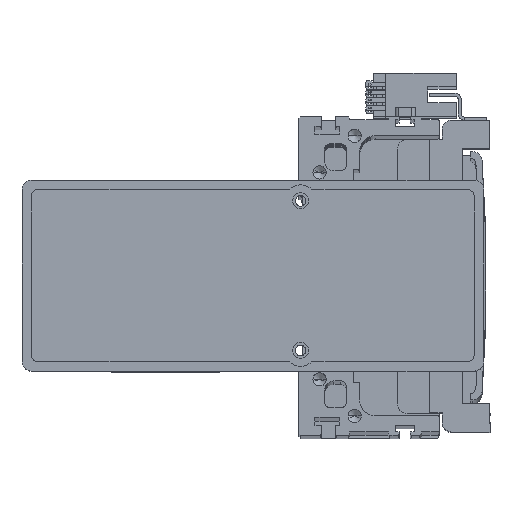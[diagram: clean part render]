
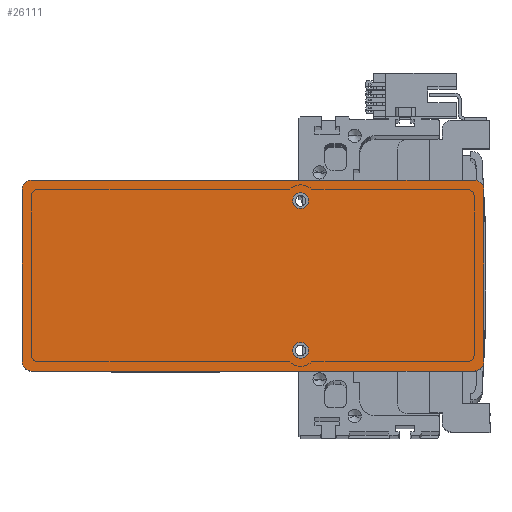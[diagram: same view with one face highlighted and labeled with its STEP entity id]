
A CAD part, top view. The second image highlights one B-rep face of the part: STEP entity #26111.
In plain terms, the highlighted planar face has unit normal (0, 0, 1) as drawn and (0, 0, -1) by its records, which use the part's own axes.
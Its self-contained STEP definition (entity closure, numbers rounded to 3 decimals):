
#12 = CIRCLE ( 'NONE', #10536, 3. ) ;
#491 = DIRECTION ( 'NONE',  ( 0., 0., -1. ) ) ;
#1661 = CARTESIAN_POINT ( 'NONE',  ( 15., -23.5, 0. ) ) ;
#2094 = CIRCLE ( 'NONE', #30233, 3. ) ;
#2236 = CARTESIAN_POINT ( 'NONE',  ( -69.5, 30., 0. ) ) ;
#3254 = CARTESIAN_POINT ( 'NONE',  ( 69.5, 30., 0. ) ) ;
#3315 = AXIS2_PLACEMENT_3D ( 'NONE', #35837, #16517, #39106 ) ;
#3468 = CARTESIAN_POINT ( 'NONE',  ( 15., 23.5, 0. ) ) ;
#3576 = ORIENTED_EDGE ( 'NONE', *, *, #8893, .F. ) ;
#3593 = DIRECTION ( 'NONE',  ( 0., 0., -1. ) ) ;
#3835 = VERTEX_POINT ( 'NONE', #26160 ) ;
#4068 = VERTEX_POINT ( 'NONE', #11952 ) ;
#4305 = VECTOR ( 'NONE', #36354, 1000. ) ;
#4425 = EDGE_CURVE ( 'NONE', #40394, #8383, #35513, .T. ) ;
#4871 = DIRECTION ( 'NONE',  ( 0., 1., 0. ) ) ;
#4902 = DIRECTION ( 'NONE',  ( -1., 0., 0. ) ) ;
#5485 = ORIENTED_EDGE ( 'NONE', *, *, #18612, .F. ) ;
#6014 = VERTEX_POINT ( 'NONE', #3254 ) ;
#6663 = ORIENTED_EDGE ( 'NONE', *, *, #4425, .F. ) ;
#6713 = DIRECTION ( 'NONE',  ( -1., 0., 0. ) ) ;
#7177 = ORIENTED_EDGE ( 'NONE', *, *, #9986, .F. ) ;
#7451 = CARTESIAN_POINT ( 'NONE',  ( -72.5, -30., 0. ) ) ;
#7753 = CARTESIAN_POINT ( 'NONE',  ( 12.5, 23.5, 0. ) ) ;
#8383 = VERTEX_POINT ( 'NONE', #17517 ) ;
#8536 = CARTESIAN_POINT ( 'NONE',  ( 72.5, 27., 0. ) ) ;
#8893 = EDGE_CURVE ( 'NONE', #4068, #12435, #31868, .T. ) ;
#9300 = DIRECTION ( 'NONE',  ( 0., 0., 1. ) ) ;
#9791 = ORIENTED_EDGE ( 'NONE', *, *, #23837, .T. ) ;
#9985 = ORIENTED_EDGE ( 'NONE', *, *, #38138, .T. ) ;
#9986 = EDGE_CURVE ( 'NONE', #24341, #22531, #27918, .T. ) ;
#10536 = AXIS2_PLACEMENT_3D ( 'NONE', #19761, #491, #22985 ) ;
#10806 = VECTOR ( 'NONE', #28280, 1000. ) ;
#11192 = CARTESIAN_POINT ( 'NONE',  ( 72.5, -30., 0. ) ) ;
#11229 = EDGE_CURVE ( 'NONE', #4068, #15933, #12, .T. ) ;
#11380 = AXIS2_PLACEMENT_3D ( 'NONE', #1661, #24107, #4902 ) ;
#11457 = ORIENTED_EDGE ( 'NONE', *, *, #11229, .T. ) ;
#11952 = CARTESIAN_POINT ( 'NONE',  ( 72.5, -27., 0. ) ) ;
#12073 = CARTESIAN_POINT ( 'NONE',  ( 15., 23.5, 0. ) ) ;
#12386 = PLANE ( 'NONE',  #40024 ) ;
#12435 = VERTEX_POINT ( 'NONE', #8536 ) ;
#12695 = EDGE_CURVE ( 'NONE', #16002, #22531, #17470, .T. ) ;
#12812 = AXIS2_PLACEMENT_3D ( 'NONE', #37796, #18490, #41008 ) ;
#12858 = EDGE_LOOP ( 'NONE', ( #5485, #22912 ) ) ;
#13389 = CIRCLE ( 'NONE', #29921, 2.5 ) ;
#13544 = FACE_OUTER_BOUND ( 'NONE', #17754, .T. ) ;
#14477 = CARTESIAN_POINT ( 'NONE',  ( -69.5, 27., 0. ) ) ;
#15318 = DIRECTION ( 'NONE',  ( -1., 0., 0. ) ) ;
#15933 = VERTEX_POINT ( 'NONE', #31003 ) ;
#16002 = VERTEX_POINT ( 'NONE', #25042 ) ;
#16517 = DIRECTION ( 'NONE',  ( 0., 0., -1. ) ) ;
#16893 = VERTEX_POINT ( 'NONE', #2236 ) ;
#17470 = CIRCLE ( 'NONE', #3315, 3. ) ;
#17517 = CARTESIAN_POINT ( 'NONE',  ( 17.5, -23.5, 0. ) ) ;
#17643 = DIRECTION ( 'NONE',  ( 1., 0., 0. ) ) ;
#17754 = EDGE_LOOP ( 'NONE', ( #3576, #11457, #28784, #41576, #7177, #9985, #41284, #9791 ) ) ;
#18490 = DIRECTION ( 'NONE',  ( 0., 0., -1. ) ) ;
#18612 = EDGE_CURVE ( 'NONE', #19298, #3835, #24079, .T. ) ;
#19298 = VERTEX_POINT ( 'NONE', #7753 ) ;
#19358 = VECTOR ( 'NONE', #26695, 1000. ) ;
#19708 = EDGE_LOOP ( 'NONE', ( #6663, #34772 ) ) ;
#19761 = CARTESIAN_POINT ( 'NONE',  ( 69.5, -27., 0. ) ) ;
#20347 = LINE ( 'NONE', #25021, #10806 ) ;
#21348 = LINE ( 'NONE', #26600, #4305 ) ;
#22531 = VERTEX_POINT ( 'NONE', #35972 ) ;
#22819 = CARTESIAN_POINT ( 'NONE',  ( 69.5, 27., 0. ) ) ;
#22912 = ORIENTED_EDGE ( 'NONE', *, *, #36097, .F. ) ;
#22985 = DIRECTION ( 'NONE',  ( 1., 0., 0. ) ) ;
#23837 = EDGE_CURVE ( 'NONE', #6014, #12435, #40081, .T. ) ;
#24079 = CIRCLE ( 'NONE', #29753, 2.5 ) ;
#24107 = DIRECTION ( 'NONE',  ( 0., 0., -1. ) ) ;
#24308 = EDGE_CURVE ( 'NONE', #6014, #16893, #20347, .T. ) ;
#24341 = VERTEX_POINT ( 'NONE', #41235 ) ;
#25021 = CARTESIAN_POINT ( 'NONE',  ( 72.5, 30., 0. ) ) ;
#25042 = CARTESIAN_POINT ( 'NONE',  ( -69.5, -30., 0. ) ) ;
#25930 = DIRECTION ( 'NONE',  ( 0., 0., -1. ) ) ;
#25975 = CIRCLE ( 'NONE', #12812, 2.5 ) ;
#26060 = DIRECTION ( 'NONE',  ( 1., 0., 0. ) ) ;
#26111 = ADVANCED_FACE ( 'NONE', ( #38226, #30658, #13544 ), #12386, .F. ) ;
#26160 = CARTESIAN_POINT ( 'NONE',  ( 17.5, 23.5, 0. ) ) ;
#26600 = CARTESIAN_POINT ( 'NONE',  ( 72.5, -30., 0. ) ) ;
#26695 = DIRECTION ( 'NONE',  ( 0., -1., 0. ) ) ;
#27918 = LINE ( 'NONE', #7451, #19358 ) ;
#28280 = DIRECTION ( 'NONE',  ( -1., 0., 0. ) ) ;
#28544 = CARTESIAN_POINT ( 'NONE',  ( 0., 0., 0. ) ) ;
#28784 = ORIENTED_EDGE ( 'NONE', *, *, #30342, .F. ) ;
#29753 = AXIS2_PLACEMENT_3D ( 'NONE', #3468, #25930, #6713 ) ;
#29921 = AXIS2_PLACEMENT_3D ( 'NONE', #12073, #34624, #15318 ) ;
#30233 = AXIS2_PLACEMENT_3D ( 'NONE', #14477, #36998, #17643 ) ;
#30342 = EDGE_CURVE ( 'NONE', #16002, #15933, #21348, .T. ) ;
#30658 = FACE_BOUND ( 'NONE', #19708, .T. ) ;
#30996 = AXIS2_PLACEMENT_3D ( 'NONE', #22819, #3593, #26060 ) ;
#31003 = CARTESIAN_POINT ( 'NONE',  ( 69.5, -30., 0. ) ) ;
#31787 = DIRECTION ( 'NONE',  ( 1., 0., 0. ) ) ;
#31868 = LINE ( 'NONE', #11192, #39489 ) ;
#34624 = DIRECTION ( 'NONE',  ( 0., 0., -1. ) ) ;
#34772 = ORIENTED_EDGE ( 'NONE', *, *, #40937, .F. ) ;
#35513 = CIRCLE ( 'NONE', #11380, 2.5 ) ;
#35837 = CARTESIAN_POINT ( 'NONE',  ( -69.5, -27., 0. ) ) ;
#35972 = CARTESIAN_POINT ( 'NONE',  ( -72.5, -27., 0. ) ) ;
#36097 = EDGE_CURVE ( 'NONE', #3835, #19298, #13389, .T. ) ;
#36354 = DIRECTION ( 'NONE',  ( 1., 0., 0. ) ) ;
#36998 = DIRECTION ( 'NONE',  ( 0., 0., -1. ) ) ;
#37796 = CARTESIAN_POINT ( 'NONE',  ( 15., -23.5, 0. ) ) ;
#38138 = EDGE_CURVE ( 'NONE', #24341, #16893, #2094, .T. ) ;
#38226 = FACE_BOUND ( 'NONE', #12858, .T. ) ;
#39106 = DIRECTION ( 'NONE',  ( 1., 0., 0. ) ) ;
#39489 = VECTOR ( 'NONE', #4871, 1000. ) ;
#40024 = AXIS2_PLACEMENT_3D ( 'NONE', #28544, #9300, #31787 ) ;
#40081 = CIRCLE ( 'NONE', #30996, 3. ) ;
#40394 = VERTEX_POINT ( 'NONE', #40656 ) ;
#40656 = CARTESIAN_POINT ( 'NONE',  ( 12.5, -23.5, 0. ) ) ;
#40937 = EDGE_CURVE ( 'NONE', #8383, #40394, #25975, .T. ) ;
#41008 = DIRECTION ( 'NONE',  ( -1., 0., 0. ) ) ;
#41235 = CARTESIAN_POINT ( 'NONE',  ( -72.5, 27., 0. ) ) ;
#41284 = ORIENTED_EDGE ( 'NONE', *, *, #24308, .F. ) ;
#41576 = ORIENTED_EDGE ( 'NONE', *, *, #12695, .T. ) ;
